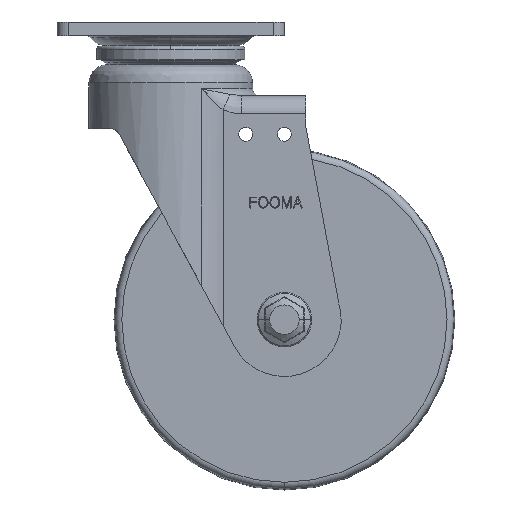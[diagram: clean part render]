
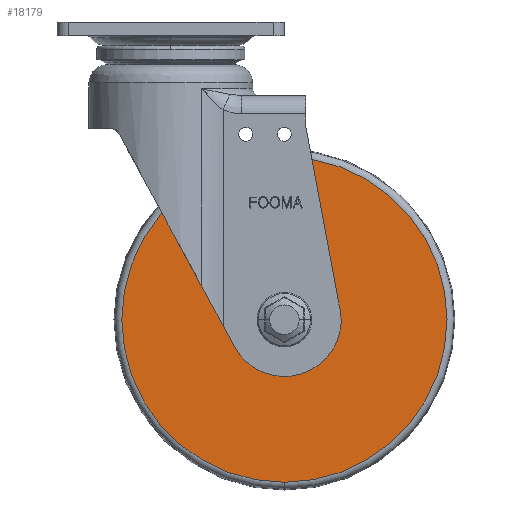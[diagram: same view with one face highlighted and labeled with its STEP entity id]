
A CAD part, front view. The second image highlights one B-rep face of the part: STEP entity #18179.
In plain terms, the highlighted planar face has unit normal (0, -1, 0) as drawn and (0, 0, 1) by its records, which use the part's own axes.
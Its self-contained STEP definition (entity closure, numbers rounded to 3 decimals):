
#909=CARTESIAN_POINT('',(101.278,0.505,4.));
#910=VERTEX_POINT('',#909);
#919=CARTESIAN_POINT('',(101.278,-19.495,4.));
#920=VERTEX_POINT('',#919);
#921=CARTESIAN_POINT('',(101.278,-9.495,4.));
#922=DIRECTION('',(0.0,0.0,-1.0));
#923=DIRECTION('',(0.0,1.0,0.0));
#924=AXIS2_PLACEMENT_3D('',#921,#922,#923);
#925=CIRCLE('',#924,10.);
#926=EDGE_CURVE('',#920,#910,#925,.T.);
#997=CARTESIAN_POINT('',(101.278,62.061,4.));
#998=VERTEX_POINT('',#997);
#1015=CARTESIAN_POINT('',(101.278,-81.051,4.));
#1016=VERTEX_POINT('',#1015);
#1024=CARTESIAN_POINT('',(101.278,-9.495,4.));
#1025=DIRECTION('',(0.0,0.0,-1.0));
#1026=DIRECTION('',(0.0,1.0,0.0));
#1027=AXIS2_PLACEMENT_3D('',#1024,#1025,#1026);
#1028=CIRCLE('',#1027,71.556);
#1029=EDGE_CURVE('',#1016,#998,#1028,.T.);
#18148=CARTESIAN_POINT('',(101.278,-9.495,4.));
#18149=DIRECTION('',(0.0,0.0,-1.0));
#18150=DIRECTION('',(0.0,1.0,0.0));
#18151=AXIS2_PLACEMENT_3D('',#18148,#18149,#18150);
#18152=CIRCLE('',#18151,71.556);
#18153=EDGE_CURVE('',#998,#1016,#18152,.T.);
#18160=CARTESIAN_POINT('',(101.278,31.283,4.));
#18161=DIRECTION('',(0.0,0.0,1.0));
#18162=DIRECTION('',(0.0,-1.0,0.0));
#18163=AXIS2_PLACEMENT_3D('',#18160,#18161,#18162);
#18164=PLANE('',#18163);
#18165=ORIENTED_EDGE('',*,*,#18153,.F.);
#18166=ORIENTED_EDGE('',*,*,#1029,.F.);
#18167=EDGE_LOOP('',(#18165,#18166));
#18168=FACE_OUTER_BOUND('',#18167,.T.);
#18169=CARTESIAN_POINT('',(101.278,-9.495,4.));
#18170=DIRECTION('',(0.0,0.0,-1.0));
#18171=DIRECTION('',(0.0,1.0,0.0));
#18172=AXIS2_PLACEMENT_3D('',#18169,#18170,#18171);
#18173=CIRCLE('',#18172,10.);
#18174=EDGE_CURVE('',#910,#920,#18173,.T.);
#18175=ORIENTED_EDGE('',*,*,#18174,.T.);
#18176=ORIENTED_EDGE('',*,*,#926,.T.);
#18177=EDGE_LOOP('',(#18175,#18176));
#18178=FACE_BOUND('',#18177,.T.);
#18179=ADVANCED_FACE('',(#18168,#18178),#18164,.T.);
